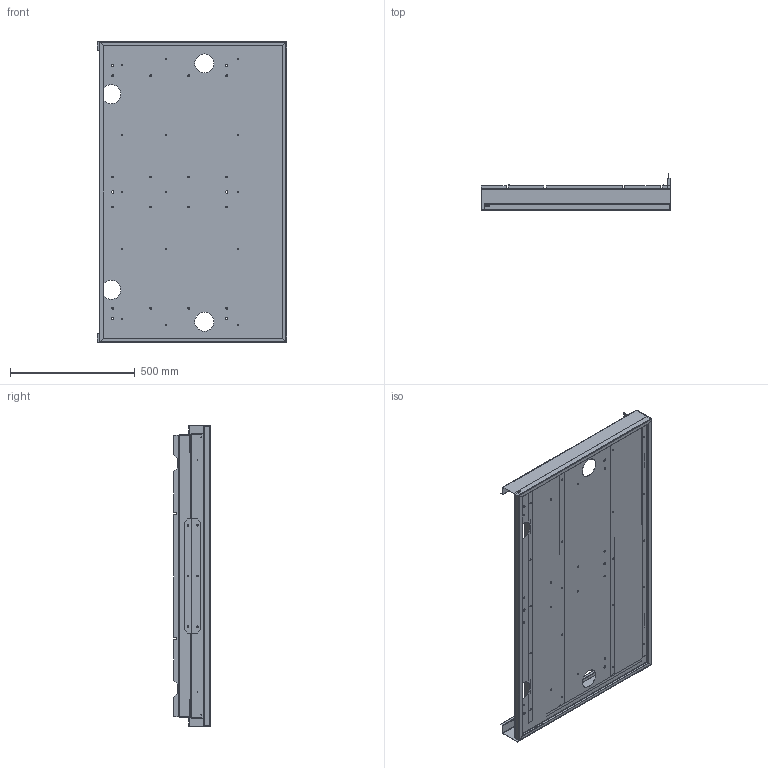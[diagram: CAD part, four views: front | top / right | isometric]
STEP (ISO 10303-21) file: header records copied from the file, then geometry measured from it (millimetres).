
FILE_DESCRIPTION (( 'STEP AP214' ), '1' );
FILE_NAME ('IRP-3 RISER BASE.STEP', '2016-07-14T15:29:36', ( 'BMC' ), ( 'Bard Manufacturing Co., Inc.' ), 'SwSTEP 2.0', 'SolidWorks 2016', '' );
FILE_SCHEMA (( 'AUTOMOTIVE_DESIGN' ));
Length unit declared in the file: inch
Products named in the file (8): IRP-3 RISER BASE; 126-420; 140-384; 104-1263; 134-309; 134-310; 112-447; Mirror134-310
Assembly tree (10 placements, depth 2):
  IRP-3 RISER BASE
    126-420
    140-384  x2
    104-1263  x2
    134-309
    134-310
    112-447  x2
    Mirror134-310
Bounding box: 760.48 x 147.68 x 1209.78 mm (x, y, z)
Surface area: 4527017.8 mm2 (no closed solid volume)
Topology: 0 solids, 10 shells, 686 faces, 1888 edges, 1230 vertices
Faces by surface type: cylinder 358, plane 296, bspline 32
Entity records: 18183 total; most frequent: CARTESIAN_POINT 3987, DIRECTION 2990, ORIENTED_EDGE 2836, EDGE_CURVE 1418, AXIS2_PLACEMENT_3D 1077, VERTEX_POINT 922, VECTOR 836, LINE 836
